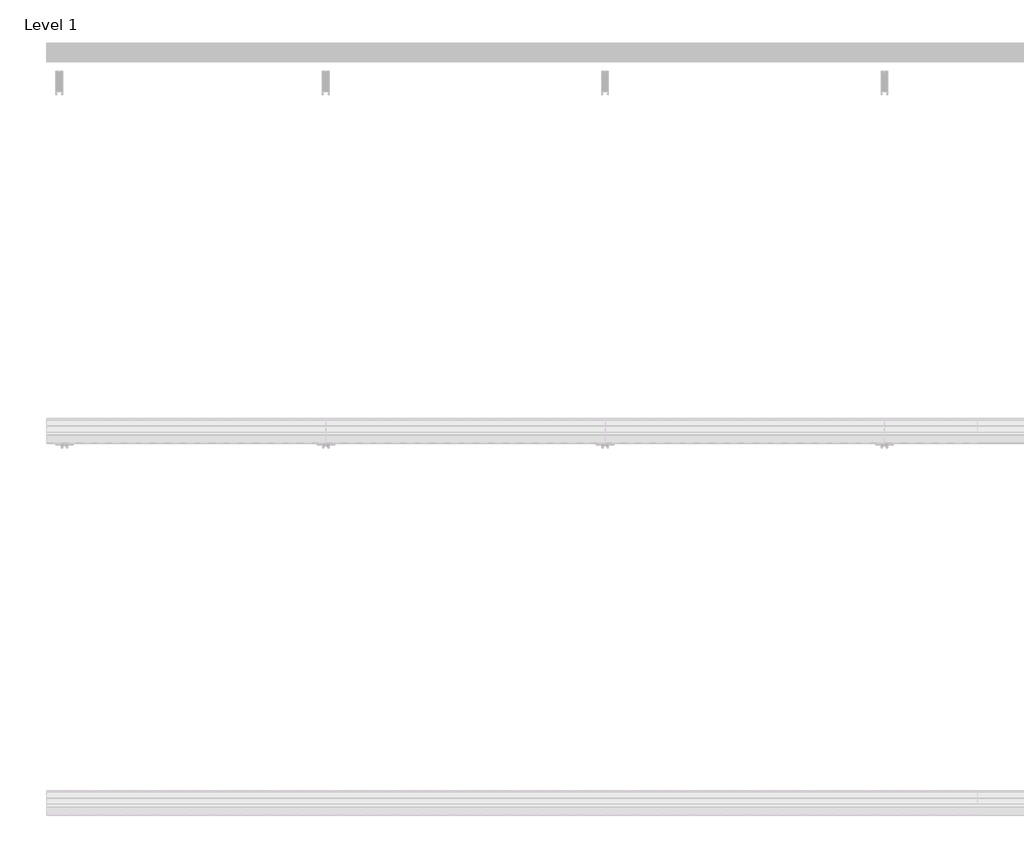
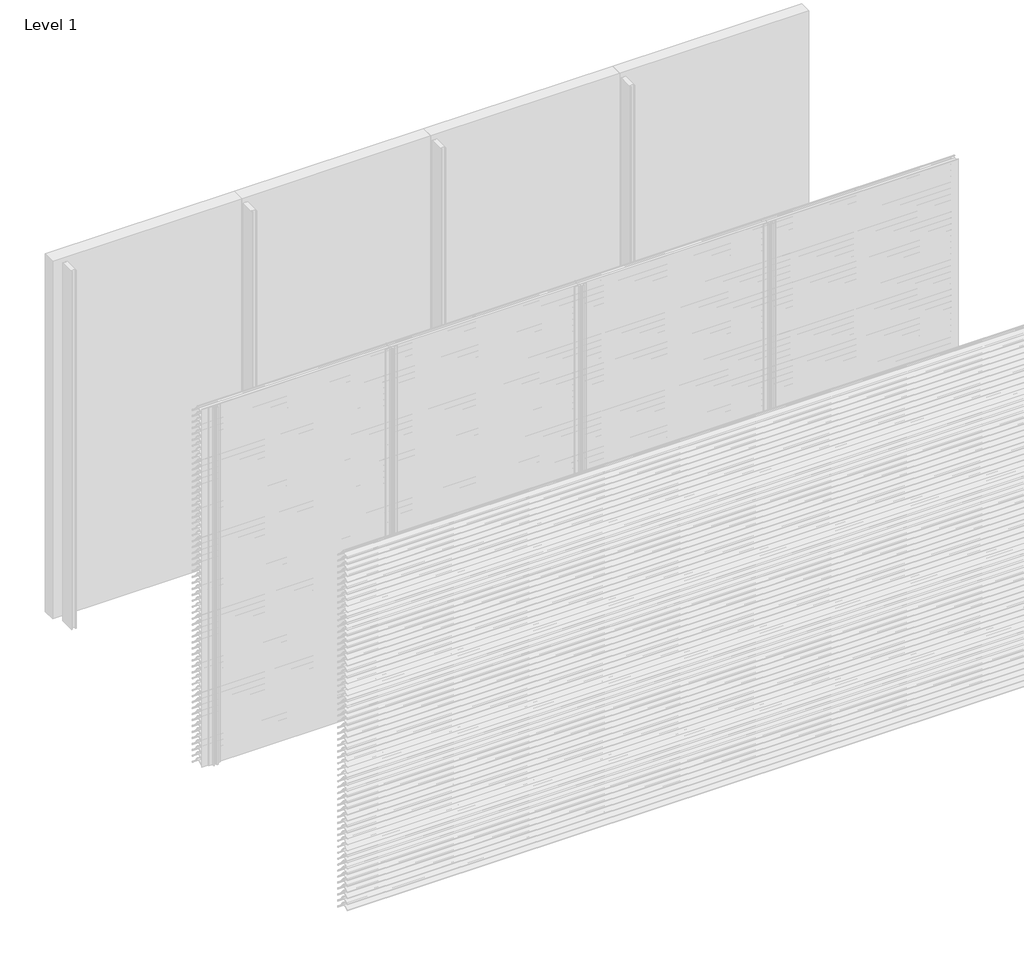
# One storey, part 12 of 173: 18 proxies.
"""IFC4 building model written with IfcOpenShell, lengths in millimetres."""

from ifc_helpers import new_model, si_unit, point, frame, frame_2d, origin, place, context, project, spatial, polyline, circle_curve, trimmed, segment, composite_curve, outline, extrude, element, save

model = new_model("IFC4")

# Units and contexts
model_context = context("Model", 3, world=origin())
ifc_project = project(units=[si_unit("LENGTHUNIT", "METRE", prefix="MILLI")], contexts=[model_context])

# Site, building, storey
site = spatial("IfcSite", under=ifc_project)
building = spatial("IfcBuilding", under=site)
storey = spatial("IfcBuildingStorey", under=building, Name="Level 1", Elevation=0.0)

# Proxies
placement = place(None, origin())
element("IfcBuildingElementProxy", 1, Name="Wall Sweeps", at=placement, inside=storey, context=model_context, shape_type="SweptSolid", body=[
    extrude(outline(composite_curve([segment(polyline([(-53998.0, 1059.1474905), (-53998.0, 1061.6227417)]), True, "CONTINUOUS"), segment(trimmed(circle_curve(frame_2d((-53951.2682172, 1016.2200208)), 65.1557103), [point((-53998.0, 1061.6227417))], [point((-53954.4014323, 1081.3003524))], False, "CARTESIAN"), True, "CONTINUOUS"), segment(polyline([(-53954.4014323, 1081.3003524), (-53934.8315836, 1081.3003524)]), True, "CONTINUOUS"), segment(trimmed(circle_curve(frame_2d((-53732.7329489, 1228.5533172)), 250.0545817), [point((-53934.8315836, 1081.3003524))], [point((-53941.4452143, 1090.8344583))], False, "CARTESIAN"), True, "CONTINUOUS"), segment(trimmed(circle_curve(frame_2d((-53953.2981792, 1085.1737835)), 13.1352966), [point((-53941.4452143, 1090.8344583))], [point((-53953.8171475, 1098.298824))], True, "CARTESIAN"), True, "CONTINUOUS"), segment(polyline([(-53953.8171475, 1098.298824), (-53953.8171475, 1100.0)]), True, "CONTINUOUS"), segment(trimmed(circle_curve(frame_2d((-53953.2981792, 1085.1737835)), 14.8352966), [point((-53953.8171475, 1100.0))], [point((-53939.9637661, 1091.6760487))], False, "CARTESIAN"), True, "CONTINUOUS"), segment(trimmed(circle_curve(frame_2d((-53732.7329489, 1228.5533172)), 248.3545817), [point((-53939.9637661, 1091.6760487))], [point((-53873.8787895, 1024.2059416))], True, "CARTESIAN"), True, "CONTINUOUS"), segment(trimmed(circle_curve(frame_2d((-53883.8147537, 1011.6649442)), 16.0), [point((-53873.8787895, 1024.2059416))], [point((-53867.8648347, 1010.4))], False, "CARTESIAN"), True, "CONTINUOUS"), segment(polyline([(-53867.8648347, 1010.4), (-53869.6712069, 1010.4)]), True, "CONTINUOUS"), segment(trimmed(circle_curve(frame_2d((-53883.8147537, 1011.6649442)), 14.2), [point((-53869.6712069, 1010.4))], [point((-53874.9518628, 1022.7594998))], True, "CARTESIAN"), True, "CONTINUOUS"), segment(trimmed(circle_curve(frame_2d((-53732.7329489, 1228.5533172)), 250.1545817), [point((-53874.9518628, 1022.7594998))], [point((-53933.7064024, 1079.6003524))], False, "CARTESIAN"), True, "CONTINUOUS"), segment(polyline([(-53933.7064024, 1079.6003524), (-53954.3602632, 1079.6003524)]), True, "CONTINUOUS"), segment(trimmed(circle_curve(frame_2d((-53951.2682172, 1016.2200208)), 63.4557103), [point((-53954.3602632, 1079.6003524))], [point((-53998.0, 1059.1474905))], True, "CARTESIAN"), True, "CONTINUOUS")], self_intersect=False)), frame((1500.0, 0.0, 0.0), z_axis=(1.0, 0.0, 0.0), x_axis=(0.0, 1.0, 0.0)), (0.0, 0.0, 1.0), 1500.0),
])
element("IfcBuildingElementProxy", 2, Name="Wall Sweeps", at=placement, inside=storey, context=model_context, shape_type="SweptSolid", body=[
    extrude(outline(composite_curve([segment(polyline([(-53998.0, 1009.1474905), (-53998.0, 1011.6227417)]), True, "CONTINUOUS"), segment(trimmed(circle_curve(frame_2d((-53951.2682172, 966.2200208)), 65.1557103), [point((-53998.0, 1011.6227417))], [point((-53954.4014323, 1031.3003524))], False, "CARTESIAN"), True, "CONTINUOUS"), segment(polyline([(-53954.4014323, 1031.3003524), (-53934.8315836, 1031.3003524)]), True, "CONTINUOUS"), segment(trimmed(circle_curve(frame_2d((-53732.7329489, 1178.5533172)), 250.0545817), [point((-53934.8315836, 1031.3003524))], [point((-53941.4452143, 1040.8344583))], False, "CARTESIAN"), True, "CONTINUOUS"), segment(trimmed(circle_curve(frame_2d((-53953.2981792, 1035.1737835)), 13.1352966), [point((-53941.4452143, 1040.8344583))], [point((-53953.8171475, 1048.298824))], True, "CARTESIAN"), True, "CONTINUOUS"), segment(polyline([(-53953.8171475, 1048.298824), (-53953.8171475, 1050.0)]), True, "CONTINUOUS"), segment(trimmed(circle_curve(frame_2d((-53953.2981792, 1035.1737835)), 14.8352966), [point((-53953.8171475, 1050.0))], [point((-53939.9637661, 1041.6760487))], False, "CARTESIAN"), True, "CONTINUOUS"), segment(trimmed(circle_curve(frame_2d((-53732.7329489, 1178.5533172)), 248.3545817), [point((-53939.9637661, 1041.6760487))], [point((-53873.8787895, 974.2059416))], True, "CARTESIAN"), True, "CONTINUOUS"), segment(trimmed(circle_curve(frame_2d((-53883.8147537, 961.6649442)), 16.0), [point((-53873.8787895, 974.2059416))], [point((-53867.8648347, 960.4))], False, "CARTESIAN"), True, "CONTINUOUS"), segment(polyline([(-53867.8648347, 960.4), (-53869.6712069, 960.4)]), True, "CONTINUOUS"), segment(trimmed(circle_curve(frame_2d((-53883.8147537, 961.6649442)), 14.2), [point((-53869.6712069, 960.4))], [point((-53874.9518628, 972.7594998))], True, "CARTESIAN"), True, "CONTINUOUS"), segment(trimmed(circle_curve(frame_2d((-53732.7329489, 1178.5533172)), 250.1545817), [point((-53874.9518628, 972.7594998))], [point((-53933.7064024, 1029.6003524))], False, "CARTESIAN"), True, "CONTINUOUS"), segment(polyline([(-53933.7064024, 1029.6003524), (-53954.3602632, 1029.6003524)]), True, "CONTINUOUS"), segment(trimmed(circle_curve(frame_2d((-53951.2682172, 966.2200208)), 63.4557103), [point((-53954.3602632, 1029.6003524))], [point((-53998.0, 1009.1474905))], True, "CARTESIAN"), True, "CONTINUOUS")], self_intersect=False)), frame((1500.0, 0.0, 0.0), z_axis=(1.0, 0.0, 0.0), x_axis=(0.0, 1.0, 0.0)), (0.0, 0.0, 1.0), 1500.0),
])
element("IfcBuildingElementProxy", 3, Name="Wall Sweeps", at=placement, inside=storey, context=model_context, shape_type="SweptSolid", body=[
    extrude(outline(composite_curve([segment(polyline([(-53998.0, 959.1474905), (-53998.0, 961.6227417)]), True, "CONTINUOUS"), segment(trimmed(circle_curve(frame_2d((-53951.2682172, 916.2200208)), 65.1557103), [point((-53998.0, 961.6227417))], [point((-53954.4014323, 981.3003524))], False, "CARTESIAN"), True, "CONTINUOUS"), segment(polyline([(-53954.4014323, 981.3003524), (-53934.8315836, 981.3003524)]), True, "CONTINUOUS"), segment(trimmed(circle_curve(frame_2d((-53732.7329489, 1128.5533172)), 250.0545817), [point((-53934.8315836, 981.3003524))], [point((-53941.4452143, 990.8344583))], False, "CARTESIAN"), True, "CONTINUOUS"), segment(trimmed(circle_curve(frame_2d((-53953.2981792, 985.1737835)), 13.1352966), [point((-53941.4452143, 990.8344583))], [point((-53953.8171475, 998.298824))], True, "CARTESIAN"), True, "CONTINUOUS"), segment(polyline([(-53953.8171475, 998.298824), (-53953.8171475, 1000.0)]), True, "CONTINUOUS"), segment(trimmed(circle_curve(frame_2d((-53953.2981792, 985.1737835)), 14.8352966), [point((-53953.8171475, 1000.0))], [point((-53939.9637661, 991.6760487))], False, "CARTESIAN"), True, "CONTINUOUS"), segment(trimmed(circle_curve(frame_2d((-53732.7329489, 1128.5533172)), 248.3545817), [point((-53939.9637661, 991.6760487))], [point((-53873.8787895, 924.2059416))], True, "CARTESIAN"), True, "CONTINUOUS"), segment(trimmed(circle_curve(frame_2d((-53883.8147537, 911.6649442)), 16.0), [point((-53873.8787895, 924.2059416))], [point((-53867.8648347, 910.4))], False, "CARTESIAN"), True, "CONTINUOUS"), segment(polyline([(-53867.8648347, 910.4), (-53869.6712069, 910.4)]), True, "CONTINUOUS"), segment(trimmed(circle_curve(frame_2d((-53883.8147537, 911.6649442)), 14.2), [point((-53869.6712069, 910.4))], [point((-53874.9518628, 922.7594998))], True, "CARTESIAN"), True, "CONTINUOUS"), segment(trimmed(circle_curve(frame_2d((-53732.7329489, 1128.5533172)), 250.1545817), [point((-53874.9518628, 922.7594998))], [point((-53933.7064024, 979.6003524))], False, "CARTESIAN"), True, "CONTINUOUS"), segment(polyline([(-53933.7064024, 979.6003524), (-53954.3602632, 979.6003524)]), True, "CONTINUOUS"), segment(trimmed(circle_curve(frame_2d((-53951.2682172, 916.2200208)), 63.4557103), [point((-53954.3602632, 979.6003524))], [point((-53998.0, 959.1474905))], True, "CARTESIAN"), True, "CONTINUOUS")], self_intersect=False)), frame((1500.0, 0.0, 0.0), z_axis=(1.0, 0.0, 0.0), x_axis=(0.0, 1.0, 0.0)), (0.0, 0.0, 1.0), 1500.0),
])
element("IfcBuildingElementProxy", 4, Name="Wall Sweeps", at=placement, inside=storey, context=model_context, shape_type="SweptSolid", body=[
    extrude(outline(composite_curve([segment(polyline([(-53998.0, 909.1474905), (-53998.0, 911.6227417)]), True, "CONTINUOUS"), segment(trimmed(circle_curve(frame_2d((-53951.2682172, 866.2200208)), 65.1557103), [point((-53998.0, 911.6227417))], [point((-53954.4014323, 931.3003524))], False, "CARTESIAN"), True, "CONTINUOUS"), segment(polyline([(-53954.4014323, 931.3003524), (-53934.8315836, 931.3003524)]), True, "CONTINUOUS"), segment(trimmed(circle_curve(frame_2d((-53732.7329489, 1078.5533172)), 250.0545817), [point((-53934.8315836, 931.3003524))], [point((-53941.4452143, 940.8344583))], False, "CARTESIAN"), True, "CONTINUOUS"), segment(trimmed(circle_curve(frame_2d((-53953.2981792, 935.1737835)), 13.1352966), [point((-53941.4452143, 940.8344583))], [point((-53953.8171475, 948.298824))], True, "CARTESIAN"), True, "CONTINUOUS"), segment(polyline([(-53953.8171475, 948.298824), (-53953.8171475, 950.0)]), True, "CONTINUOUS"), segment(trimmed(circle_curve(frame_2d((-53953.2981792, 935.1737835)), 14.8352966), [point((-53953.8171475, 950.0))], [point((-53939.9637661, 941.6760487))], False, "CARTESIAN"), True, "CONTINUOUS"), segment(trimmed(circle_curve(frame_2d((-53732.7329489, 1078.5533172)), 248.3545817), [point((-53939.9637661, 941.6760487))], [point((-53873.8787895, 874.2059416))], True, "CARTESIAN"), True, "CONTINUOUS"), segment(trimmed(circle_curve(frame_2d((-53883.8147537, 861.6649442)), 16.0), [point((-53873.8787895, 874.2059416))], [point((-53867.8648347, 860.4))], False, "CARTESIAN"), True, "CONTINUOUS"), segment(polyline([(-53867.8648347, 860.4), (-53869.6712069, 860.4)]), True, "CONTINUOUS"), segment(trimmed(circle_curve(frame_2d((-53883.8147537, 861.6649442)), 14.2), [point((-53869.6712069, 860.4))], [point((-53874.9518628, 872.7594998))], True, "CARTESIAN"), True, "CONTINUOUS"), segment(trimmed(circle_curve(frame_2d((-53732.7329489, 1078.5533172)), 250.1545817), [point((-53874.9518628, 872.7594998))], [point((-53933.7064024, 929.6003524))], False, "CARTESIAN"), True, "CONTINUOUS"), segment(polyline([(-53933.7064024, 929.6003524), (-53954.3602632, 929.6003524)]), True, "CONTINUOUS"), segment(trimmed(circle_curve(frame_2d((-53951.2682172, 866.2200208)), 63.4557103), [point((-53954.3602632, 929.6003524))], [point((-53998.0, 909.1474905))], True, "CARTESIAN"), True, "CONTINUOUS")], self_intersect=False)), frame((1500.0, 0.0, 0.0), z_axis=(1.0, 0.0, 0.0), x_axis=(0.0, 1.0, 0.0)), (0.0, 0.0, 1.0), 1500.0),
])
element("IfcBuildingElementProxy", 5, Name="Wall Sweeps", at=placement, inside=storey, context=model_context, shape_type="SweptSolid", body=[
    extrude(outline(composite_curve([segment(polyline([(-53998.0, 859.1474905), (-53998.0, 861.6227417)]), True, "CONTINUOUS"), segment(trimmed(circle_curve(frame_2d((-53951.2682172, 816.2200208)), 65.1557103), [point((-53998.0, 861.6227417))], [point((-53954.4014323, 881.3003524))], False, "CARTESIAN"), True, "CONTINUOUS"), segment(polyline([(-53954.4014323, 881.3003524), (-53934.8315836, 881.3003524)]), True, "CONTINUOUS"), segment(trimmed(circle_curve(frame_2d((-53732.7329489, 1028.5533172)), 250.0545817), [point((-53934.8315836, 881.3003524))], [point((-53941.4452143, 890.8344583))], False, "CARTESIAN"), True, "CONTINUOUS"), segment(trimmed(circle_curve(frame_2d((-53953.2981792, 885.1737835)), 13.1352966), [point((-53941.4452143, 890.8344583))], [point((-53953.8171475, 898.298824))], True, "CARTESIAN"), True, "CONTINUOUS"), segment(polyline([(-53953.8171475, 898.298824), (-53953.8171475, 900.0)]), True, "CONTINUOUS"), segment(trimmed(circle_curve(frame_2d((-53953.2981792, 885.1737835)), 14.8352966), [point((-53953.8171475, 900.0))], [point((-53939.9637661, 891.6760487))], False, "CARTESIAN"), True, "CONTINUOUS"), segment(trimmed(circle_curve(frame_2d((-53732.7329489, 1028.5533172)), 248.3545817), [point((-53939.9637661, 891.6760487))], [point((-53873.8787895, 824.2059416))], True, "CARTESIAN"), True, "CONTINUOUS"), segment(trimmed(circle_curve(frame_2d((-53883.8147537, 811.6649442)), 16.0), [point((-53873.8787895, 824.2059416))], [point((-53867.8648347, 810.4))], False, "CARTESIAN"), True, "CONTINUOUS"), segment(polyline([(-53867.8648347, 810.4), (-53869.6712069, 810.4)]), True, "CONTINUOUS"), segment(trimmed(circle_curve(frame_2d((-53883.8147537, 811.6649442)), 14.2), [point((-53869.6712069, 810.4))], [point((-53874.9518628, 822.7594998))], True, "CARTESIAN"), True, "CONTINUOUS"), segment(trimmed(circle_curve(frame_2d((-53732.7329489, 1028.5533172)), 250.1545817), [point((-53874.9518628, 822.7594998))], [point((-53933.7064024, 879.6003524))], False, "CARTESIAN"), True, "CONTINUOUS"), segment(polyline([(-53933.7064024, 879.6003524), (-53954.3602632, 879.6003524)]), True, "CONTINUOUS"), segment(trimmed(circle_curve(frame_2d((-53951.2682172, 816.2200208)), 63.4557103), [point((-53954.3602632, 879.6003524))], [point((-53998.0, 859.1474905))], True, "CARTESIAN"), True, "CONTINUOUS")], self_intersect=False)), frame((1500.0, 0.0, 0.0), z_axis=(1.0, 0.0, 0.0), x_axis=(0.0, 1.0, 0.0)), (0.0, 0.0, 1.0), 1500.0),
])
element("IfcBuildingElementProxy", 6, Name="Wall Sweeps", at=placement, inside=storey, context=model_context, shape_type="SweptSolid", body=[
    extrude(outline(composite_curve([segment(polyline([(-53998.0, 809.1474905), (-53998.0, 811.6227417)]), True, "CONTINUOUS"), segment(trimmed(circle_curve(frame_2d((-53951.2682172, 766.2200208)), 65.1557103), [point((-53998.0, 811.6227417))], [point((-53954.4014323, 831.3003524))], False, "CARTESIAN"), True, "CONTINUOUS"), segment(polyline([(-53954.4014323, 831.3003524), (-53934.8315836, 831.3003524)]), True, "CONTINUOUS"), segment(trimmed(circle_curve(frame_2d((-53732.7329489, 978.5533172)), 250.0545817), [point((-53934.8315836, 831.3003524))], [point((-53941.4452143, 840.8344583))], False, "CARTESIAN"), True, "CONTINUOUS"), segment(trimmed(circle_curve(frame_2d((-53953.2981792, 835.1737835)), 13.1352966), [point((-53941.4452143, 840.8344583))], [point((-53953.8171475, 848.298824))], True, "CARTESIAN"), True, "CONTINUOUS"), segment(polyline([(-53953.8171475, 848.298824), (-53953.8171475, 850.0)]), True, "CONTINUOUS"), segment(trimmed(circle_curve(frame_2d((-53953.2981792, 835.1737835)), 14.8352966), [point((-53953.8171475, 850.0))], [point((-53939.9637661, 841.6760487))], False, "CARTESIAN"), True, "CONTINUOUS"), segment(trimmed(circle_curve(frame_2d((-53732.7329489, 978.5533172)), 248.3545817), [point((-53939.9637661, 841.6760487))], [point((-53873.8787895, 774.2059416))], True, "CARTESIAN"), True, "CONTINUOUS"), segment(trimmed(circle_curve(frame_2d((-53883.8147537, 761.6649442)), 16.0), [point((-53873.8787895, 774.2059416))], [point((-53867.8648347, 760.4))], False, "CARTESIAN"), True, "CONTINUOUS"), segment(polyline([(-53867.8648347, 760.4), (-53869.6712069, 760.4)]), True, "CONTINUOUS"), segment(trimmed(circle_curve(frame_2d((-53883.8147537, 761.6649442)), 14.2), [point((-53869.6712069, 760.4))], [point((-53874.9518628, 772.7594998))], True, "CARTESIAN"), True, "CONTINUOUS"), segment(trimmed(circle_curve(frame_2d((-53732.7329489, 978.5533172)), 250.1545817), [point((-53874.9518628, 772.7594998))], [point((-53933.7064024, 829.6003524))], False, "CARTESIAN"), True, "CONTINUOUS"), segment(polyline([(-53933.7064024, 829.6003524), (-53954.3602632, 829.6003524)]), True, "CONTINUOUS"), segment(trimmed(circle_curve(frame_2d((-53951.2682172, 766.2200208)), 63.4557103), [point((-53954.3602632, 829.6003524))], [point((-53998.0, 809.1474905))], True, "CARTESIAN"), True, "CONTINUOUS")], self_intersect=False)), frame((1500.0, 0.0, 0.0), z_axis=(1.0, 0.0, 0.0), x_axis=(0.0, 1.0, 0.0)), (0.0, 0.0, 1.0), 1500.0),
])
element("IfcBuildingElementProxy", 7, Name="Wall Sweeps", at=placement, inside=storey, context=model_context, shape_type="SweptSolid", body=[
    extrude(outline(composite_curve([segment(polyline([(-53998.0, 759.1474905), (-53998.0, 761.6227417)]), True, "CONTINUOUS"), segment(trimmed(circle_curve(frame_2d((-53951.2682172, 716.2200208)), 65.1557103), [point((-53998.0, 761.6227417))], [point((-53954.4014323, 781.3003524))], False, "CARTESIAN"), True, "CONTINUOUS"), segment(polyline([(-53954.4014323, 781.3003524), (-53934.8315836, 781.3003524)]), True, "CONTINUOUS"), segment(trimmed(circle_curve(frame_2d((-53732.7329489, 928.5533172)), 250.0545817), [point((-53934.8315836, 781.3003524))], [point((-53941.4452143, 790.8344583))], False, "CARTESIAN"), True, "CONTINUOUS"), segment(trimmed(circle_curve(frame_2d((-53953.2981792, 785.1737835)), 13.1352966), [point((-53941.4452143, 790.8344583))], [point((-53953.8171475, 798.298824))], True, "CARTESIAN"), True, "CONTINUOUS"), segment(polyline([(-53953.8171475, 798.298824), (-53953.8171475, 800.0)]), True, "CONTINUOUS"), segment(trimmed(circle_curve(frame_2d((-53953.2981792, 785.1737835)), 14.8352966), [point((-53953.8171475, 800.0))], [point((-53939.9637661, 791.6760487))], False, "CARTESIAN"), True, "CONTINUOUS"), segment(trimmed(circle_curve(frame_2d((-53732.7329489, 928.5533172)), 248.3545817), [point((-53939.9637661, 791.6760487))], [point((-53873.8787895, 724.2059416))], True, "CARTESIAN"), True, "CONTINUOUS"), segment(trimmed(circle_curve(frame_2d((-53883.8147537, 711.6649442)), 16.0), [point((-53873.8787895, 724.2059416))], [point((-53867.8648347, 710.4))], False, "CARTESIAN"), True, "CONTINUOUS"), segment(polyline([(-53867.8648347, 710.4), (-53869.6712069, 710.4)]), True, "CONTINUOUS"), segment(trimmed(circle_curve(frame_2d((-53883.8147537, 711.6649442)), 14.2), [point((-53869.6712069, 710.4))], [point((-53874.9518628, 722.7594998))], True, "CARTESIAN"), True, "CONTINUOUS"), segment(trimmed(circle_curve(frame_2d((-53732.7329489, 928.5533172)), 250.1545817), [point((-53874.9518628, 722.7594998))], [point((-53933.7064024, 779.6003524))], False, "CARTESIAN"), True, "CONTINUOUS"), segment(polyline([(-53933.7064024, 779.6003524), (-53954.3602632, 779.6003524)]), True, "CONTINUOUS"), segment(trimmed(circle_curve(frame_2d((-53951.2682172, 716.2200208)), 63.4557103), [point((-53954.3602632, 779.6003524))], [point((-53998.0, 759.1474905))], True, "CARTESIAN"), True, "CONTINUOUS")], self_intersect=False)), frame((1500.0, 0.0, 0.0), z_axis=(1.0, 0.0, 0.0), x_axis=(0.0, 1.0, 0.0)), (0.0, 0.0, 1.0), 1500.0),
])
element("IfcBuildingElementProxy", 8, Name="Wall Sweeps", at=placement, inside=storey, context=model_context, shape_type="SweptSolid", body=[
    extrude(outline(composite_curve([segment(polyline([(-53998.0, 709.1474905), (-53998.0, 711.6227417)]), True, "CONTINUOUS"), segment(trimmed(circle_curve(frame_2d((-53951.2682172, 666.2200208)), 65.1557103), [point((-53998.0, 711.6227417))], [point((-53954.4014323, 731.3003524))], False, "CARTESIAN"), True, "CONTINUOUS"), segment(polyline([(-53954.4014323, 731.3003524), (-53934.8315836, 731.3003524)]), True, "CONTINUOUS"), segment(trimmed(circle_curve(frame_2d((-53732.7329489, 878.5533172)), 250.0545817), [point((-53934.8315836, 731.3003524))], [point((-53941.4452143, 740.8344583))], False, "CARTESIAN"), True, "CONTINUOUS"), segment(trimmed(circle_curve(frame_2d((-53953.2981792, 735.1737835)), 13.1352966), [point((-53941.4452143, 740.8344583))], [point((-53953.8171475, 748.298824))], True, "CARTESIAN"), True, "CONTINUOUS"), segment(polyline([(-53953.8171475, 748.298824), (-53953.8171475, 750.0)]), True, "CONTINUOUS"), segment(trimmed(circle_curve(frame_2d((-53953.2981792, 735.1737835)), 14.8352966), [point((-53953.8171475, 750.0))], [point((-53939.9637661, 741.6760487))], False, "CARTESIAN"), True, "CONTINUOUS"), segment(trimmed(circle_curve(frame_2d((-53732.7329489, 878.5533172)), 248.3545817), [point((-53939.9637661, 741.6760487))], [point((-53873.8787895, 674.2059416))], True, "CARTESIAN"), True, "CONTINUOUS"), segment(trimmed(circle_curve(frame_2d((-53883.8147537, 661.6649442)), 16.0), [point((-53873.8787895, 674.2059416))], [point((-53867.8648347, 660.4))], False, "CARTESIAN"), True, "CONTINUOUS"), segment(polyline([(-53867.8648347, 660.4), (-53869.6712069, 660.4)]), True, "CONTINUOUS"), segment(trimmed(circle_curve(frame_2d((-53883.8147537, 661.6649442)), 14.2), [point((-53869.6712069, 660.4))], [point((-53874.9518628, 672.7594998))], True, "CARTESIAN"), True, "CONTINUOUS"), segment(trimmed(circle_curve(frame_2d((-53732.7329489, 878.5533172)), 250.1545817), [point((-53874.9518628, 672.7594998))], [point((-53933.7064024, 729.6003524))], False, "CARTESIAN"), True, "CONTINUOUS"), segment(polyline([(-53933.7064024, 729.6003524), (-53954.3602632, 729.6003524)]), True, "CONTINUOUS"), segment(trimmed(circle_curve(frame_2d((-53951.2682172, 666.2200208)), 63.4557103), [point((-53954.3602632, 729.6003524))], [point((-53998.0, 709.1474905))], True, "CARTESIAN"), True, "CONTINUOUS")], self_intersect=False)), frame((1500.0, 0.0, 0.0), z_axis=(1.0, 0.0, 0.0), x_axis=(0.0, 1.0, 0.0)), (0.0, 0.0, 1.0), 1500.0),
])
element("IfcBuildingElementProxy", 9, Name="Wall Sweeps", at=placement, inside=storey, context=model_context, shape_type="SweptSolid", body=[
    extrude(outline(composite_curve([segment(polyline([(-53998.0, 659.1474905), (-53998.0, 661.6227417)]), True, "CONTINUOUS"), segment(trimmed(circle_curve(frame_2d((-53951.2682172, 616.2200208)), 65.1557103), [point((-53998.0, 661.6227417))], [point((-53954.4014323, 681.3003524))], False, "CARTESIAN"), True, "CONTINUOUS"), segment(polyline([(-53954.4014323, 681.3003524), (-53934.8315836, 681.3003524)]), True, "CONTINUOUS"), segment(trimmed(circle_curve(frame_2d((-53732.7329489, 828.5533172)), 250.0545817), [point((-53934.8315836, 681.3003524))], [point((-53941.4452143, 690.8344583))], False, "CARTESIAN"), True, "CONTINUOUS"), segment(trimmed(circle_curve(frame_2d((-53953.2981792, 685.1737835)), 13.1352966), [point((-53941.4452143, 690.8344583))], [point((-53953.8171475, 698.298824))], True, "CARTESIAN"), True, "CONTINUOUS"), segment(polyline([(-53953.8171475, 698.298824), (-53953.8171475, 700.0)]), True, "CONTINUOUS"), segment(trimmed(circle_curve(frame_2d((-53953.2981792, 685.1737835)), 14.8352966), [point((-53953.8171475, 700.0))], [point((-53939.9637661, 691.6760487))], False, "CARTESIAN"), True, "CONTINUOUS"), segment(trimmed(circle_curve(frame_2d((-53732.7329489, 828.5533172)), 248.3545817), [point((-53939.9637661, 691.6760487))], [point((-53873.8787895, 624.2059416))], True, "CARTESIAN"), True, "CONTINUOUS"), segment(trimmed(circle_curve(frame_2d((-53883.8147537, 611.6649442)), 16.0), [point((-53873.8787895, 624.2059416))], [point((-53867.8648347, 610.4))], False, "CARTESIAN"), True, "CONTINUOUS"), segment(polyline([(-53867.8648347, 610.4), (-53869.6712069, 610.4)]), True, "CONTINUOUS"), segment(trimmed(circle_curve(frame_2d((-53883.8147537, 611.6649442)), 14.2), [point((-53869.6712069, 610.4))], [point((-53874.9518628, 622.7594998))], True, "CARTESIAN"), True, "CONTINUOUS"), segment(trimmed(circle_curve(frame_2d((-53732.7329489, 828.5533172)), 250.1545817), [point((-53874.9518628, 622.7594998))], [point((-53933.7064024, 679.6003524))], False, "CARTESIAN"), True, "CONTINUOUS"), segment(polyline([(-53933.7064024, 679.6003524), (-53954.3602632, 679.6003524)]), True, "CONTINUOUS"), segment(trimmed(circle_curve(frame_2d((-53951.2682172, 616.2200208)), 63.4557103), [point((-53954.3602632, 679.6003524))], [point((-53998.0, 659.1474905))], True, "CARTESIAN"), True, "CONTINUOUS")], self_intersect=False)), frame((1500.0, 0.0, 0.0), z_axis=(1.0, 0.0, 0.0), x_axis=(0.0, 1.0, 0.0)), (0.0, 0.0, 1.0), 1500.0),
])
element("IfcBuildingElementProxy", 10, Name="Wall Sweeps", at=placement, inside=storey, context=model_context, shape_type="SweptSolid", body=[
    extrude(outline(composite_curve([segment(polyline([(-53998.0, 609.1474905), (-53998.0, 611.6227417)]), True, "CONTINUOUS"), segment(trimmed(circle_curve(frame_2d((-53951.2682172, 566.2200208)), 65.1557103), [point((-53998.0, 611.6227417))], [point((-53954.4014323, 631.3003524))], False, "CARTESIAN"), True, "CONTINUOUS"), segment(polyline([(-53954.4014323, 631.3003524), (-53934.8315836, 631.3003524)]), True, "CONTINUOUS"), segment(trimmed(circle_curve(frame_2d((-53732.7329489, 778.5533172)), 250.0545817), [point((-53934.8315836, 631.3003524))], [point((-53941.4452143, 640.8344583))], False, "CARTESIAN"), True, "CONTINUOUS"), segment(trimmed(circle_curve(frame_2d((-53953.2981792, 635.1737835)), 13.1352966), [point((-53941.4452143, 640.8344583))], [point((-53953.8171475, 648.298824))], True, "CARTESIAN"), True, "CONTINUOUS"), segment(polyline([(-53953.8171475, 648.298824), (-53953.8171475, 650.0)]), True, "CONTINUOUS"), segment(trimmed(circle_curve(frame_2d((-53953.2981792, 635.1737835)), 14.8352966), [point((-53953.8171475, 650.0))], [point((-53939.9637661, 641.6760487))], False, "CARTESIAN"), True, "CONTINUOUS"), segment(trimmed(circle_curve(frame_2d((-53732.7329489, 778.5533172)), 248.3545817), [point((-53939.9637661, 641.6760487))], [point((-53873.8787895, 574.2059416))], True, "CARTESIAN"), True, "CONTINUOUS"), segment(trimmed(circle_curve(frame_2d((-53883.8147537, 561.6649442)), 16.0), [point((-53873.8787895, 574.2059416))], [point((-53867.8648347, 560.4))], False, "CARTESIAN"), True, "CONTINUOUS"), segment(polyline([(-53867.8648347, 560.4), (-53869.6712069, 560.4)]), True, "CONTINUOUS"), segment(trimmed(circle_curve(frame_2d((-53883.8147537, 561.6649442)), 14.2), [point((-53869.6712069, 560.4))], [point((-53874.9518628, 572.7594998))], True, "CARTESIAN"), True, "CONTINUOUS"), segment(trimmed(circle_curve(frame_2d((-53732.7329489, 778.5533172)), 250.1545817), [point((-53874.9518628, 572.7594998))], [point((-53933.7064024, 629.6003524))], False, "CARTESIAN"), True, "CONTINUOUS"), segment(polyline([(-53933.7064024, 629.6003524), (-53954.3602632, 629.6003524)]), True, "CONTINUOUS"), segment(trimmed(circle_curve(frame_2d((-53951.2682172, 566.2200208)), 63.4557103), [point((-53954.3602632, 629.6003524))], [point((-53998.0, 609.1474905))], True, "CARTESIAN"), True, "CONTINUOUS")], self_intersect=False)), frame((1500.0, 0.0, 0.0), z_axis=(1.0, 0.0, 0.0), x_axis=(0.0, 1.0, 0.0)), (0.0, 0.0, 1.0), 1500.0),
])
element("IfcBuildingElementProxy", 11, Name="Wall Sweeps", at=placement, inside=storey, context=model_context, shape_type="SweptSolid", body=[
    extrude(outline(composite_curve([segment(polyline([(-53998.0, 559.1474905), (-53998.0, 561.6227417)]), True, "CONTINUOUS"), segment(trimmed(circle_curve(frame_2d((-53951.2682172, 516.2200208)), 65.1557103), [point((-53998.0, 561.6227417))], [point((-53954.4014323, 581.3003524))], False, "CARTESIAN"), True, "CONTINUOUS"), segment(polyline([(-53954.4014323, 581.3003524), (-53934.8315836, 581.3003524)]), True, "CONTINUOUS"), segment(trimmed(circle_curve(frame_2d((-53732.7329489, 728.5533172)), 250.0545817), [point((-53934.8315836, 581.3003524))], [point((-53941.4452143, 590.8344583))], False, "CARTESIAN"), True, "CONTINUOUS"), segment(trimmed(circle_curve(frame_2d((-53953.2981792, 585.1737835)), 13.1352966), [point((-53941.4452143, 590.8344583))], [point((-53953.8171475, 598.298824))], True, "CARTESIAN"), True, "CONTINUOUS"), segment(polyline([(-53953.8171475, 598.298824), (-53953.8171475, 600.0)]), True, "CONTINUOUS"), segment(trimmed(circle_curve(frame_2d((-53953.2981792, 585.1737835)), 14.8352966), [point((-53953.8171475, 600.0))], [point((-53939.9637661, 591.6760487))], False, "CARTESIAN"), True, "CONTINUOUS"), segment(trimmed(circle_curve(frame_2d((-53732.7329489, 728.5533172)), 248.3545817), [point((-53939.9637661, 591.6760487))], [point((-53873.8787895, 524.2059416))], True, "CARTESIAN"), True, "CONTINUOUS"), segment(trimmed(circle_curve(frame_2d((-53883.8147537, 511.6649442)), 16.0), [point((-53873.8787895, 524.2059416))], [point((-53867.8648347, 510.4))], False, "CARTESIAN"), True, "CONTINUOUS"), segment(polyline([(-53867.8648347, 510.4), (-53869.6712069, 510.4)]), True, "CONTINUOUS"), segment(trimmed(circle_curve(frame_2d((-53883.8147537, 511.6649442)), 14.2), [point((-53869.6712069, 510.4))], [point((-53874.9518628, 522.7594998))], True, "CARTESIAN"), True, "CONTINUOUS"), segment(trimmed(circle_curve(frame_2d((-53732.7329489, 728.5533172)), 250.1545817), [point((-53874.9518628, 522.7594998))], [point((-53933.7064024, 579.6003524))], False, "CARTESIAN"), True, "CONTINUOUS"), segment(polyline([(-53933.7064024, 579.6003524), (-53954.3602632, 579.6003524)]), True, "CONTINUOUS"), segment(trimmed(circle_curve(frame_2d((-53951.2682172, 516.2200208)), 63.4557103), [point((-53954.3602632, 579.6003524))], [point((-53998.0, 559.1474905))], True, "CARTESIAN"), True, "CONTINUOUS")], self_intersect=False)), frame((1500.0, 0.0, 0.0), z_axis=(1.0, 0.0, 0.0), x_axis=(0.0, 1.0, 0.0)), (0.0, 0.0, 1.0), 1500.0),
])
element("IfcBuildingElementProxy", 12, Name="Wall Sweeps", at=placement, inside=storey, context=model_context, shape_type="SweptSolid", body=[
    extrude(outline(composite_curve([segment(polyline([(-53998.0, 509.1474905), (-53998.0, 511.6227417)]), True, "CONTINUOUS"), segment(trimmed(circle_curve(frame_2d((-53951.2682172, 466.2200208)), 65.1557103), [point((-53998.0, 511.6227417))], [point((-53954.4014323, 531.3003524))], False, "CARTESIAN"), True, "CONTINUOUS"), segment(polyline([(-53954.4014323, 531.3003524), (-53934.8315836, 531.3003524)]), True, "CONTINUOUS"), segment(trimmed(circle_curve(frame_2d((-53732.7329489, 678.5533172)), 250.0545817), [point((-53934.8315836, 531.3003524))], [point((-53941.4452143, 540.8344583))], False, "CARTESIAN"), True, "CONTINUOUS"), segment(trimmed(circle_curve(frame_2d((-53953.2981792, 535.1737835)), 13.1352966), [point((-53941.4452143, 540.8344583))], [point((-53953.8171475, 548.298824))], True, "CARTESIAN"), True, "CONTINUOUS"), segment(polyline([(-53953.8171475, 548.298824), (-53953.8171475, 550.0)]), True, "CONTINUOUS"), segment(trimmed(circle_curve(frame_2d((-53953.2981792, 535.1737835)), 14.8352966), [point((-53953.8171475, 550.0))], [point((-53939.9637661, 541.6760487))], False, "CARTESIAN"), True, "CONTINUOUS"), segment(trimmed(circle_curve(frame_2d((-53732.7329489, 678.5533172)), 248.3545817), [point((-53939.9637661, 541.6760487))], [point((-53873.8787895, 474.2059416))], True, "CARTESIAN"), True, "CONTINUOUS"), segment(trimmed(circle_curve(frame_2d((-53883.8147537, 461.6649442)), 16.0), [point((-53873.8787895, 474.2059416))], [point((-53867.8648347, 460.4))], False, "CARTESIAN"), True, "CONTINUOUS"), segment(polyline([(-53867.8648347, 460.4), (-53869.6712069, 460.4)]), True, "CONTINUOUS"), segment(trimmed(circle_curve(frame_2d((-53883.8147537, 461.6649442)), 14.2), [point((-53869.6712069, 460.4))], [point((-53874.9518628, 472.7594998))], True, "CARTESIAN"), True, "CONTINUOUS"), segment(trimmed(circle_curve(frame_2d((-53732.7329489, 678.5533172)), 250.1545817), [point((-53874.9518628, 472.7594998))], [point((-53933.7064024, 529.6003524))], False, "CARTESIAN"), True, "CONTINUOUS"), segment(polyline([(-53933.7064024, 529.6003524), (-53954.3602632, 529.6003524)]), True, "CONTINUOUS"), segment(trimmed(circle_curve(frame_2d((-53951.2682172, 466.2200208)), 63.4557103), [point((-53954.3602632, 529.6003524))], [point((-53998.0, 509.1474905))], True, "CARTESIAN"), True, "CONTINUOUS")], self_intersect=False)), frame((1500.0, 0.0, 0.0), z_axis=(1.0, 0.0, 0.0), x_axis=(0.0, 1.0, 0.0)), (0.0, 0.0, 1.0), 1500.0),
])
element("IfcBuildingElementProxy", 13, Name="Wall Sweeps", at=placement, inside=storey, context=model_context, shape_type="SweptSolid", body=[
    extrude(outline(composite_curve([segment(polyline([(-53998.0, 459.1474905), (-53998.0, 461.6227417)]), True, "CONTINUOUS"), segment(trimmed(circle_curve(frame_2d((-53951.2682172, 416.2200208)), 65.1557103), [point((-53998.0, 461.6227417))], [point((-53954.4014323, 481.3003524))], False, "CARTESIAN"), True, "CONTINUOUS"), segment(polyline([(-53954.4014323, 481.3003524), (-53934.8315836, 481.3003524)]), True, "CONTINUOUS"), segment(trimmed(circle_curve(frame_2d((-53732.7329489, 628.5533172)), 250.0545817), [point((-53934.8315836, 481.3003524))], [point((-53941.4452143, 490.8344583))], False, "CARTESIAN"), True, "CONTINUOUS"), segment(trimmed(circle_curve(frame_2d((-53953.2981792, 485.1737835)), 13.1352966), [point((-53941.4452143, 490.8344583))], [point((-53953.8171475, 498.298824))], True, "CARTESIAN"), True, "CONTINUOUS"), segment(polyline([(-53953.8171475, 498.298824), (-53953.8171475, 500.0)]), True, "CONTINUOUS"), segment(trimmed(circle_curve(frame_2d((-53953.2981792, 485.1737835)), 14.8352966), [point((-53953.8171475, 500.0))], [point((-53939.9637661, 491.6760487))], False, "CARTESIAN"), True, "CONTINUOUS"), segment(trimmed(circle_curve(frame_2d((-53732.7329489, 628.5533172)), 248.3545817), [point((-53939.9637661, 491.6760487))], [point((-53873.8787895, 424.2059416))], True, "CARTESIAN"), True, "CONTINUOUS"), segment(trimmed(circle_curve(frame_2d((-53883.8147537, 411.6649442)), 16.0), [point((-53873.8787895, 424.2059416))], [point((-53867.8648347, 410.4))], False, "CARTESIAN"), True, "CONTINUOUS"), segment(polyline([(-53867.8648347, 410.4), (-53869.6712069, 410.4)]), True, "CONTINUOUS"), segment(trimmed(circle_curve(frame_2d((-53883.8147537, 411.6649442)), 14.2), [point((-53869.6712069, 410.4))], [point((-53874.9518628, 422.7594998))], True, "CARTESIAN"), True, "CONTINUOUS"), segment(trimmed(circle_curve(frame_2d((-53732.7329489, 628.5533172)), 250.1545817), [point((-53874.9518628, 422.7594998))], [point((-53933.7064024, 479.6003524))], False, "CARTESIAN"), True, "CONTINUOUS"), segment(polyline([(-53933.7064024, 479.6003524), (-53954.3602632, 479.6003524)]), True, "CONTINUOUS"), segment(trimmed(circle_curve(frame_2d((-53951.2682172, 416.2200208)), 63.4557103), [point((-53954.3602632, 479.6003524))], [point((-53998.0, 459.1474905))], True, "CARTESIAN"), True, "CONTINUOUS")], self_intersect=False)), frame((1500.0, 0.0, 0.0), z_axis=(1.0, 0.0, 0.0), x_axis=(0.0, 1.0, 0.0)), (0.0, 0.0, 1.0), 1500.0),
])
element("IfcBuildingElementProxy", 14, Name="Wall Sweeps", at=placement, inside=storey, context=model_context, shape_type="SweptSolid", body=[
    extrude(outline(composite_curve([segment(polyline([(-53998.0, 409.1474905), (-53998.0, 411.6227417)]), True, "CONTINUOUS"), segment(trimmed(circle_curve(frame_2d((-53951.2682172, 366.2200208)), 65.1557103), [point((-53998.0, 411.6227417))], [point((-53954.4014323, 431.3003524))], False, "CARTESIAN"), True, "CONTINUOUS"), segment(polyline([(-53954.4014323, 431.3003524), (-53934.8315836, 431.3003524)]), True, "CONTINUOUS"), segment(trimmed(circle_curve(frame_2d((-53732.7329489, 578.5533172)), 250.0545817), [point((-53934.8315836, 431.3003524))], [point((-53941.4452143, 440.8344583))], False, "CARTESIAN"), True, "CONTINUOUS"), segment(trimmed(circle_curve(frame_2d((-53953.2981792, 435.1737835)), 13.1352966), [point((-53941.4452143, 440.8344583))], [point((-53953.8171475, 448.298824))], True, "CARTESIAN"), True, "CONTINUOUS"), segment(polyline([(-53953.8171475, 448.298824), (-53953.8171475, 450.0)]), True, "CONTINUOUS"), segment(trimmed(circle_curve(frame_2d((-53953.2981792, 435.1737835)), 14.8352966), [point((-53953.8171475, 450.0))], [point((-53939.9637661, 441.6760487))], False, "CARTESIAN"), True, "CONTINUOUS"), segment(trimmed(circle_curve(frame_2d((-53732.7329489, 578.5533172)), 248.3545817), [point((-53939.9637661, 441.6760487))], [point((-53873.8787895, 374.2059416))], True, "CARTESIAN"), True, "CONTINUOUS"), segment(trimmed(circle_curve(frame_2d((-53883.8147537, 361.6649442)), 16.0), [point((-53873.8787895, 374.2059416))], [point((-53867.8648347, 360.4))], False, "CARTESIAN"), True, "CONTINUOUS"), segment(polyline([(-53867.8648347, 360.4), (-53869.6712069, 360.4)]), True, "CONTINUOUS"), segment(trimmed(circle_curve(frame_2d((-53883.8147537, 361.6649442)), 14.2), [point((-53869.6712069, 360.4))], [point((-53874.9518628, 372.7594998))], True, "CARTESIAN"), True, "CONTINUOUS"), segment(trimmed(circle_curve(frame_2d((-53732.7329489, 578.5533172)), 250.1545817), [point((-53874.9518628, 372.7594998))], [point((-53933.7064024, 429.6003524))], False, "CARTESIAN"), True, "CONTINUOUS"), segment(polyline([(-53933.7064024, 429.6003524), (-53954.3602632, 429.6003524)]), True, "CONTINUOUS"), segment(trimmed(circle_curve(frame_2d((-53951.2682172, 366.2200208)), 63.4557103), [point((-53954.3602632, 429.6003524))], [point((-53998.0, 409.1474905))], True, "CARTESIAN"), True, "CONTINUOUS")], self_intersect=False)), frame((1500.0, 0.0, 0.0), z_axis=(1.0, 0.0, 0.0), x_axis=(0.0, 1.0, 0.0)), (0.0, 0.0, 1.0), 1500.0),
])
element("IfcBuildingElementProxy", 15, Name="Wall Sweeps", at=placement, inside=storey, context=model_context, shape_type="SweptSolid", body=[
    extrude(outline(composite_curve([segment(polyline([(-53998.0, 359.1474905), (-53998.0, 361.6227417)]), True, "CONTINUOUS"), segment(trimmed(circle_curve(frame_2d((-53951.2682172, 316.2200208)), 65.1557103), [point((-53998.0, 361.6227417))], [point((-53954.4014323, 381.3003524))], False, "CARTESIAN"), True, "CONTINUOUS"), segment(polyline([(-53954.4014323, 381.3003524), (-53934.8315836, 381.3003524)]), True, "CONTINUOUS"), segment(trimmed(circle_curve(frame_2d((-53732.7329489, 528.5533172)), 250.0545817), [point((-53934.8315836, 381.3003524))], [point((-53941.4452143, 390.8344583))], False, "CARTESIAN"), True, "CONTINUOUS"), segment(trimmed(circle_curve(frame_2d((-53953.2981792, 385.1737835)), 13.1352966), [point((-53941.4452143, 390.8344583))], [point((-53953.8171475, 398.298824))], True, "CARTESIAN"), True, "CONTINUOUS"), segment(polyline([(-53953.8171475, 398.298824), (-53953.8171475, 400.0)]), True, "CONTINUOUS"), segment(trimmed(circle_curve(frame_2d((-53953.2981792, 385.1737835)), 14.8352966), [point((-53953.8171475, 400.0))], [point((-53939.9637661, 391.6760487))], False, "CARTESIAN"), True, "CONTINUOUS"), segment(trimmed(circle_curve(frame_2d((-53732.7329489, 528.5533172)), 248.3545817), [point((-53939.9637661, 391.6760487))], [point((-53873.8787895, 324.2059416))], True, "CARTESIAN"), True, "CONTINUOUS"), segment(trimmed(circle_curve(frame_2d((-53883.8147537, 311.6649442)), 16.0), [point((-53873.8787895, 324.2059416))], [point((-53867.8648347, 310.4))], False, "CARTESIAN"), True, "CONTINUOUS"), segment(polyline([(-53867.8648347, 310.4), (-53869.6712069, 310.4)]), True, "CONTINUOUS"), segment(trimmed(circle_curve(frame_2d((-53883.8147537, 311.6649442)), 14.2), [point((-53869.6712069, 310.4))], [point((-53874.9518628, 322.7594998))], True, "CARTESIAN"), True, "CONTINUOUS"), segment(trimmed(circle_curve(frame_2d((-53732.7329489, 528.5533172)), 250.1545817), [point((-53874.9518628, 322.7594998))], [point((-53933.7064024, 379.6003524))], False, "CARTESIAN"), True, "CONTINUOUS"), segment(polyline([(-53933.7064024, 379.6003524), (-53954.3602632, 379.6003524)]), True, "CONTINUOUS"), segment(trimmed(circle_curve(frame_2d((-53951.2682172, 316.2200208)), 63.4557103), [point((-53954.3602632, 379.6003524))], [point((-53998.0, 359.1474905))], True, "CARTESIAN"), True, "CONTINUOUS")], self_intersect=False)), frame((1500.0, 0.0, 0.0), z_axis=(1.0, 0.0, 0.0), x_axis=(0.0, 1.0, 0.0)), (0.0, 0.0, 1.0), 1500.0),
])
element("IfcBuildingElementProxy", 16, Name="Wall Sweeps", at=placement, inside=storey, context=model_context, shape_type="SweptSolid", body=[
    extrude(outline(composite_curve([segment(polyline([(-53998.0, 309.1474905), (-53998.0, 311.6227417)]), True, "CONTINUOUS"), segment(trimmed(circle_curve(frame_2d((-53951.2682172, 266.2200208)), 65.1557103), [point((-53998.0, 311.6227417))], [point((-53954.4014323, 331.3003524))], False, "CARTESIAN"), True, "CONTINUOUS"), segment(polyline([(-53954.4014323, 331.3003524), (-53934.8315836, 331.3003524)]), True, "CONTINUOUS"), segment(trimmed(circle_curve(frame_2d((-53732.7329489, 478.5533172)), 250.0545817), [point((-53934.8315836, 331.3003524))], [point((-53941.4452143, 340.8344583))], False, "CARTESIAN"), True, "CONTINUOUS"), segment(trimmed(circle_curve(frame_2d((-53953.2981792, 335.1737835)), 13.1352966), [point((-53941.4452143, 340.8344583))], [point((-53953.8171475, 348.298824))], True, "CARTESIAN"), True, "CONTINUOUS"), segment(polyline([(-53953.8171475, 348.298824), (-53953.8171475, 350.0)]), True, "CONTINUOUS"), segment(trimmed(circle_curve(frame_2d((-53953.2981792, 335.1737835)), 14.8352966), [point((-53953.8171475, 350.0))], [point((-53939.9637661, 341.6760487))], False, "CARTESIAN"), True, "CONTINUOUS"), segment(trimmed(circle_curve(frame_2d((-53732.7329489, 478.5533172)), 248.3545817), [point((-53939.9637661, 341.6760487))], [point((-53873.8787895, 274.2059416))], True, "CARTESIAN"), True, "CONTINUOUS"), segment(trimmed(circle_curve(frame_2d((-53883.8147537, 261.6649442)), 16.0), [point((-53873.8787895, 274.2059416))], [point((-53867.8648347, 260.4))], False, "CARTESIAN"), True, "CONTINUOUS"), segment(polyline([(-53867.8648347, 260.4), (-53869.6712069, 260.4)]), True, "CONTINUOUS"), segment(trimmed(circle_curve(frame_2d((-53883.8147537, 261.6649442)), 14.2), [point((-53869.6712069, 260.4))], [point((-53874.9518628, 272.7594998))], True, "CARTESIAN"), True, "CONTINUOUS"), segment(trimmed(circle_curve(frame_2d((-53732.7329489, 478.5533172)), 250.1545817), [point((-53874.9518628, 272.7594998))], [point((-53933.7064024, 329.6003524))], False, "CARTESIAN"), True, "CONTINUOUS"), segment(polyline([(-53933.7064024, 329.6003524), (-53954.3602632, 329.6003524)]), True, "CONTINUOUS"), segment(trimmed(circle_curve(frame_2d((-53951.2682172, 266.2200208)), 63.4557103), [point((-53954.3602632, 329.6003524))], [point((-53998.0, 309.1474905))], True, "CARTESIAN"), True, "CONTINUOUS")], self_intersect=False)), frame((1500.0, 0.0, 0.0), z_axis=(1.0, 0.0, 0.0), x_axis=(0.0, 1.0, 0.0)), (0.0, 0.0, 1.0), 1500.0),
])
element("IfcBuildingElementProxy", 17, Name="Wall Sweeps", at=placement, inside=storey, context=model_context, shape_type="SweptSolid", body=[
    extrude(outline(composite_curve([segment(polyline([(-53998.0, 259.1474905), (-53998.0, 261.6227417)]), True, "CONTINUOUS"), segment(trimmed(circle_curve(frame_2d((-53951.2682172, 216.2200208)), 65.1557103), [point((-53998.0, 261.6227417))], [point((-53954.4014323, 281.3003524))], False, "CARTESIAN"), True, "CONTINUOUS"), segment(polyline([(-53954.4014323, 281.3003524), (-53934.8315836, 281.3003524)]), True, "CONTINUOUS"), segment(trimmed(circle_curve(frame_2d((-53732.7329489, 428.5533172)), 250.0545817), [point((-53934.8315836, 281.3003524))], [point((-53941.4452143, 290.8344583))], False, "CARTESIAN"), True, "CONTINUOUS"), segment(trimmed(circle_curve(frame_2d((-53953.2981792, 285.1737835)), 13.1352966), [point((-53941.4452143, 290.8344583))], [point((-53953.8171475, 298.298824))], True, "CARTESIAN"), True, "CONTINUOUS"), segment(polyline([(-53953.8171475, 298.298824), (-53953.8171475, 300.0)]), True, "CONTINUOUS"), segment(trimmed(circle_curve(frame_2d((-53953.2981792, 285.1737835)), 14.8352966), [point((-53953.8171475, 300.0))], [point((-53939.9637661, 291.6760487))], False, "CARTESIAN"), True, "CONTINUOUS"), segment(trimmed(circle_curve(frame_2d((-53732.7329489, 428.5533172)), 248.3545817), [point((-53939.9637661, 291.6760487))], [point((-53873.8787895, 224.2059416))], True, "CARTESIAN"), True, "CONTINUOUS"), segment(trimmed(circle_curve(frame_2d((-53883.8147537, 211.6649442)), 16.0), [point((-53873.8787895, 224.2059416))], [point((-53867.8648347, 210.4))], False, "CARTESIAN"), True, "CONTINUOUS"), segment(polyline([(-53867.8648347, 210.4), (-53869.6712069, 210.4)]), True, "CONTINUOUS"), segment(trimmed(circle_curve(frame_2d((-53883.8147537, 211.6649442)), 14.2), [point((-53869.6712069, 210.4))], [point((-53874.9518628, 222.7594998))], True, "CARTESIAN"), True, "CONTINUOUS"), segment(trimmed(circle_curve(frame_2d((-53732.7329489, 428.5533172)), 250.1545817), [point((-53874.9518628, 222.7594998))], [point((-53933.7064024, 279.6003524))], False, "CARTESIAN"), True, "CONTINUOUS"), segment(polyline([(-53933.7064024, 279.6003524), (-53954.3602632, 279.6003524)]), True, "CONTINUOUS"), segment(trimmed(circle_curve(frame_2d((-53951.2682172, 216.2200208)), 63.4557103), [point((-53954.3602632, 279.6003524))], [point((-53998.0, 259.1474905))], True, "CARTESIAN"), True, "CONTINUOUS")], self_intersect=False)), frame((1500.0, 0.0, 0.0), z_axis=(1.0, 0.0, 0.0), x_axis=(0.0, 1.0, 0.0)), (0.0, 0.0, 1.0), 1500.0),
])
element("IfcBuildingElementProxy", 18, Name="Wall Sweeps", at=placement, inside=storey, context=model_context, shape_type="SweptSolid", body=[
    extrude(outline(composite_curve([segment(polyline([(-53998.0, 209.1474905), (-53998.0, 211.6227417)]), True, "CONTINUOUS"), segment(trimmed(circle_curve(frame_2d((-53951.2682172, 166.2200208)), 65.1557103), [point((-53998.0, 211.6227417))], [point((-53954.4014323, 231.3003524))], False, "CARTESIAN"), True, "CONTINUOUS"), segment(polyline([(-53954.4014323, 231.3003524), (-53934.8315836, 231.3003524)]), True, "CONTINUOUS"), segment(trimmed(circle_curve(frame_2d((-53732.7329489, 378.5533172)), 250.0545817), [point((-53934.8315836, 231.3003524))], [point((-53941.4452143, 240.8344583))], False, "CARTESIAN"), True, "CONTINUOUS"), segment(trimmed(circle_curve(frame_2d((-53953.2981792, 235.1737835)), 13.1352966), [point((-53941.4452143, 240.8344583))], [point((-53953.8171475, 248.298824))], True, "CARTESIAN"), True, "CONTINUOUS"), segment(polyline([(-53953.8171475, 248.298824), (-53953.8171475, 250.0)]), True, "CONTINUOUS"), segment(trimmed(circle_curve(frame_2d((-53953.2981792, 235.1737835)), 14.8352966), [point((-53953.8171475, 250.0))], [point((-53939.9637661, 241.6760487))], False, "CARTESIAN"), True, "CONTINUOUS"), segment(trimmed(circle_curve(frame_2d((-53732.7329489, 378.5533172)), 248.3545817), [point((-53939.9637661, 241.6760487))], [point((-53873.8787895, 174.2059416))], True, "CARTESIAN"), True, "CONTINUOUS"), segment(trimmed(circle_curve(frame_2d((-53883.8147537, 161.6649442)), 16.0), [point((-53873.8787895, 174.2059416))], [point((-53867.8648347, 160.4))], False, "CARTESIAN"), True, "CONTINUOUS"), segment(polyline([(-53867.8648347, 160.4), (-53869.6712069, 160.4)]), True, "CONTINUOUS"), segment(trimmed(circle_curve(frame_2d((-53883.8147537, 161.6649442)), 14.2), [point((-53869.6712069, 160.4))], [point((-53874.9518628, 172.7594998))], True, "CARTESIAN"), True, "CONTINUOUS"), segment(trimmed(circle_curve(frame_2d((-53732.7329489, 378.5533172)), 250.1545817), [point((-53874.9518628, 172.7594998))], [point((-53933.7064024, 229.6003524))], False, "CARTESIAN"), True, "CONTINUOUS"), segment(polyline([(-53933.7064024, 229.6003524), (-53954.3602632, 229.6003524)]), True, "CONTINUOUS"), segment(trimmed(circle_curve(frame_2d((-53951.2682172, 166.2200208)), 63.4557103), [point((-53954.3602632, 229.6003524))], [point((-53998.0, 209.1474905))], True, "CARTESIAN"), True, "CONTINUOUS")], self_intersect=False)), frame((1500.0, 0.0, 0.0), z_axis=(1.0, 0.0, 0.0), x_axis=(0.0, 1.0, 0.0)), (0.0, 0.0, 1.0), 1500.0),
])

save(model, "model.ifc")
